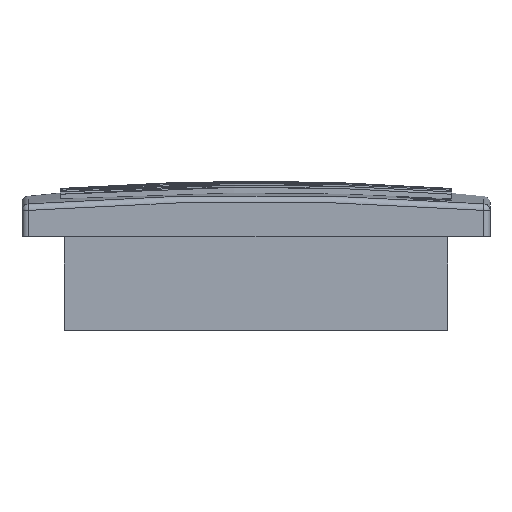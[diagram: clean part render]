
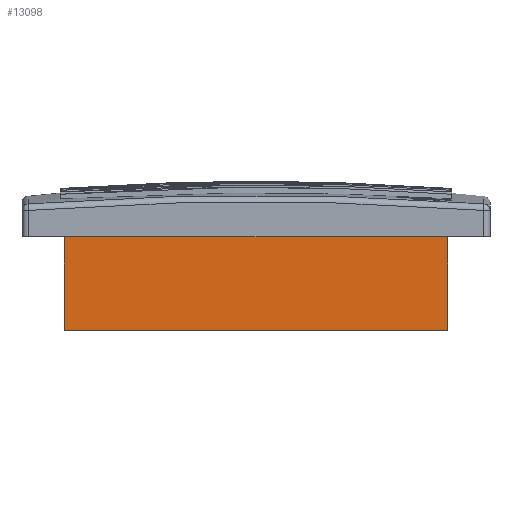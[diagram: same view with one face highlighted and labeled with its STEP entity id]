
A CAD part, front view. The second image highlights one B-rep face of the part: STEP entity #13098.
In plain terms, the highlighted planar face has unit normal (0, -1, 0).
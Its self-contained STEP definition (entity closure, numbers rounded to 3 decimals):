
#177 = VERTEX_POINT ( 'NONE', #10196 ) ;
#994 = VECTOR ( 'NONE', #12854, 1000. ) ;
#1007 = CARTESIAN_POINT ( 'NONE',  ( 0., -176., -43. ) ) ;
#1042 = LINE ( 'NONE', #8527, #994 ) ;
#1135 = VERTEX_POINT ( 'NONE', #1007 ) ;
#1756 = VERTEX_POINT ( 'NONE', #5534 ) ;
#1806 = ORIENTED_EDGE ( 'NONE', *, *, #13460, .F. ) ;
#2135 = CARTESIAN_POINT ( 'NONE',  ( 176., -176., -43. ) ) ;
#2590 = AXIS2_PLACEMENT_3D ( 'NONE', #2135, #10007, #3292 ) ;
#2772 = CARTESIAN_POINT ( 'NONE',  ( 176., -176., -43. ) ) ;
#3292 = DIRECTION ( 'NONE',  ( 0., 0., -1. ) ) ;
#3411 = EDGE_CURVE ( 'NONE', #1135, #177, #9148, .T. ) ;
#3926 = DIRECTION ( 'NONE',  ( -1., 0., 0. ) ) ;
#4244 = ORIENTED_EDGE ( 'NONE', *, *, #6616, .T. ) ;
#5010 = VECTOR ( 'NONE', #5684, 1000. ) ;
#5534 = CARTESIAN_POINT ( 'NONE',  ( 176., -176., -43. ) ) ;
#5684 = DIRECTION ( 'NONE',  ( 0., 0., 1. ) ) ;
#6145 = CARTESIAN_POINT ( 'NONE',  ( 176., -176., 0. ) ) ;
#6238 = DIRECTION ( 'NONE',  ( -1., 0., 0. ) ) ;
#6616 = EDGE_CURVE ( 'NONE', #8884, #177, #9221, .T. ) ;
#8129 = CARTESIAN_POINT ( 'NONE',  ( 0., -176., -43. ) ) ;
#8527 = CARTESIAN_POINT ( 'NONE',  ( 176., -176., -43. ) ) ;
#8724 = VECTOR ( 'NONE', #3926, 1000. ) ;
#8739 = LINE ( 'NONE', #2772, #8724 ) ;
#8884 = VERTEX_POINT ( 'NONE', #11297 ) ;
#9148 = LINE ( 'NONE', #8129, #5010 ) ;
#9221 = LINE ( 'NONE', #6145, #13205 ) ;
#9556 = ORIENTED_EDGE ( 'NONE', *, *, #12603, .T. ) ;
#9955 = PLANE ( 'NONE',  #2590 ) ;
#10007 = DIRECTION ( 'NONE',  ( 0., 1., 0. ) ) ;
#10196 = CARTESIAN_POINT ( 'NONE',  ( 0., -176., 0. ) ) ;
#11297 = CARTESIAN_POINT ( 'NONE',  ( 176., -176., 0. ) ) ;
#11722 = EDGE_LOOP ( 'NONE', ( #4244, #13927, #1806, #9556 ) ) ;
#12210 = FACE_OUTER_BOUND ( 'NONE', #11722, .T. ) ;
#12603 = EDGE_CURVE ( 'NONE', #1756, #8884, #1042, .T. ) ;
#12854 = DIRECTION ( 'NONE',  ( 0., 0., 1. ) ) ;
#13098 = ADVANCED_FACE ( 'NONE', ( #12210 ), #9955, .F. ) ;
#13205 = VECTOR ( 'NONE', #6238, 1000. ) ;
#13460 = EDGE_CURVE ( 'NONE', #1756, #1135, #8739, .T. ) ;
#13927 = ORIENTED_EDGE ( 'NONE', *, *, #3411, .F. ) ;
